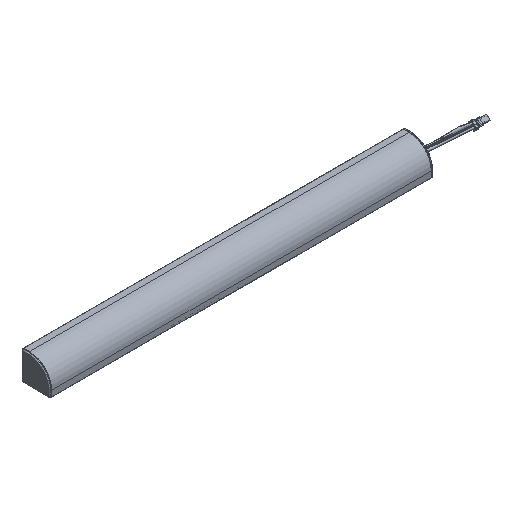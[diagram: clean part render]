
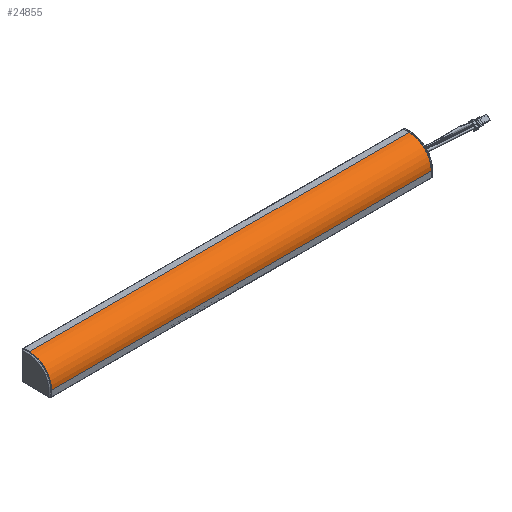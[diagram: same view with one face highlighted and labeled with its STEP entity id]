
A CAD part, isometric view. The second image highlights one B-rep face of the part: STEP entity #24855.
In plain terms, the highlighted cylindrical face has radius 23.465 mm (diameter 46.929 mm), a partial arc.
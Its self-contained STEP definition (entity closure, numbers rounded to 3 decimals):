
#587 = VERTEX_POINT ( 'NONE', #14976 ) ;
#942 = DIRECTION ( 'NONE',  ( 0., 0., 1. ) ) ;
#964 = ORIENTED_EDGE ( 'NONE', *, *, #4038, .F. ) ;
#1680 = FACE_OUTER_BOUND ( 'NONE', #7521, .T. ) ;
#1884 = DIRECTION ( 'NONE',  ( -1., 0., 0. ) ) ;
#2252 = CARTESIAN_POINT ( 'NONE',  ( 537.7, 32.492, -8.464 ) ) ;
#3540 = DIRECTION ( 'NONE',  ( 1., 0., 0. ) ) ;
#3559 = DIRECTION ( 'NONE',  ( 0., 0., 1. ) ) ;
#4038 = EDGE_CURVE ( 'NONE', #6920, #15514, #15098, .T. ) ;
#4960 = CARTESIAN_POINT ( 'NONE',  ( 537.7, 55.956, 15. ) ) ;
#6098 = DIRECTION ( 'NONE',  ( -1., 0., 0. ) ) ;
#6225 = LINE ( 'NONE', #17130, #7219 ) ;
#6920 = VERTEX_POINT ( 'NONE', #2252 ) ;
#7219 = VECTOR ( 'NONE', #1884, 1000. ) ;
#7521 = EDGE_LOOP ( 'NONE', ( #19560, #964, #17128, #22032 ) ) ;
#10558 = CIRCLE ( 'NONE', #13390, 23.464 ) ;
#13390 = AXIS2_PLACEMENT_3D ( 'NONE', #23715, #3540, #25499 ) ;
#13696 = CIRCLE ( 'NONE', #20636, 23.464 ) ;
#14143 = CARTESIAN_POINT ( 'NONE',  ( 537.7, 55.956, -8.464 ) ) ;
#14976 = CARTESIAN_POINT ( 'NONE',  ( 137.7, 55.956, 15. ) ) ;
#15098 = LINE ( 'NONE', #26583, #26391 ) ;
#15514 = VERTEX_POINT ( 'NONE', #26290 ) ;
#17128 = ORIENTED_EDGE ( 'NONE', *, *, #19426, .F. ) ;
#17130 = CARTESIAN_POINT ( 'NONE',  ( 537.7, 55.956, 15. ) ) ;
#19401 = AXIS2_PLACEMENT_3D ( 'NONE', #25658, #26088, #3559 ) ;
#19426 = EDGE_CURVE ( 'NONE', #20010, #6920, #13696, .T. ) ;
#19560 = ORIENTED_EDGE ( 'NONE', *, *, #25254, .T. ) ;
#20010 = VERTEX_POINT ( 'NONE', #4960 ) ;
#20534 = DIRECTION ( 'NONE',  ( 1., 0., 0. ) ) ;
#20636 = AXIS2_PLACEMENT_3D ( 'NONE', #14143, #20534, #942 ) ;
#20781 = EDGE_CURVE ( 'NONE', #20010, #587, #6225, .T. ) ;
#22032 = ORIENTED_EDGE ( 'NONE', *, *, #20781, .T. ) ;
#23715 = CARTESIAN_POINT ( 'NONE',  ( 137.7, 55.956, -8.464 ) ) ;
#24855 = ADVANCED_FACE ( 'NONE', ( #1680 ), #25811, .T. ) ;
#25254 = EDGE_CURVE ( 'NONE', #587, #15514, #10558, .T. ) ;
#25499 = DIRECTION ( 'NONE',  ( 0., 0., 1. ) ) ;
#25658 = CARTESIAN_POINT ( 'NONE',  ( 537.7, 55.956, -8.464 ) ) ;
#25811 = CYLINDRICAL_SURFACE ( 'NONE', #19401, 23.464 ) ;
#26088 = DIRECTION ( 'NONE',  ( -1., 0., 0. ) ) ;
#26290 = CARTESIAN_POINT ( 'NONE',  ( 137.7, 32.492, -8.464 ) ) ;
#26391 = VECTOR ( 'NONE', #6098, 1000. ) ;
#26583 = CARTESIAN_POINT ( 'NONE',  ( 537.7, 32.492, -8.464 ) ) ;
